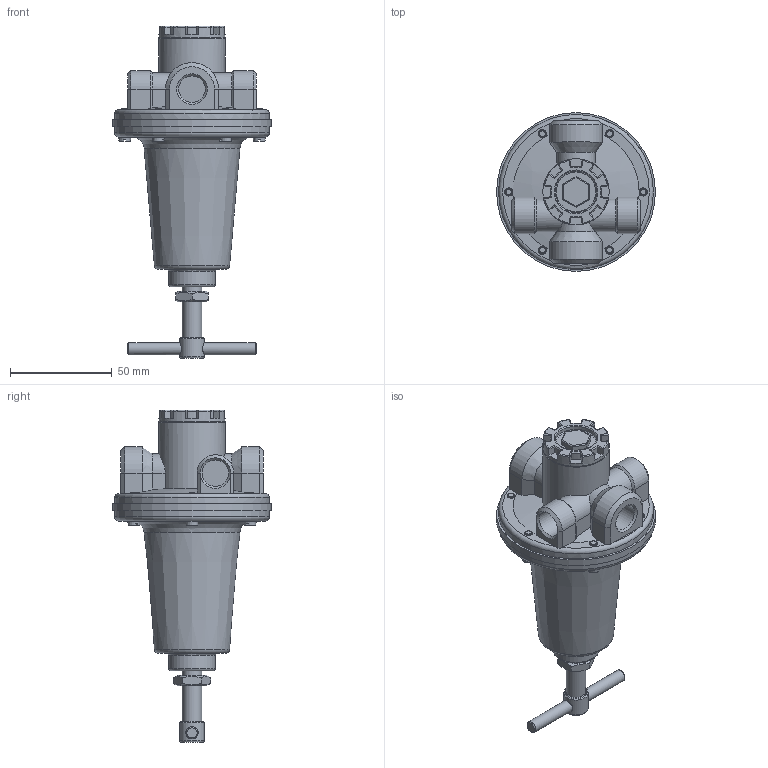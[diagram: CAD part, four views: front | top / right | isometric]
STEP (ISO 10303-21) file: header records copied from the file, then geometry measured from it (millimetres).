
FILE_DESCRIPTION((''),'2;1');
FILE_NAME('U:\AirCom-Produktdokumentation\Druckregler\R119\Zeichnungen\CAD-Aircom\3D\B-R119-02x.stp','2012-02-14T07:44:41',('frank schroers'),(''),'Autodesk Inventor 2008','Autodesk Inventor 2008','');
FILE_SCHEMA(('AUTOMOTIVE_DESIGN { 1 0 10303 214 1 1 1 1 }'));
Length unit declared in the file: millimetre
Products named in the file (4): B-R119-02x; DIN EN ISO 1207 M3,5 x 14; DIN EN 24035 M10
Assembly tree (8 placements, depth 2):
  B-R119-02x
    B-R119-02x
    DIN EN ISO 1207 M3,5 x 14  x6
    DIN EN 24035 M10
Bounding box: 78 x 78 x 163 mm (x, y, z)
Volume: 220368.6 mm3; surface area: 34713 mm2
Topology: 8 solids, 8 shells, 290 faces, 675 edges, 412 vertices
Faces by surface type: plane 136, cylinder 71, cone 40, torus 34, bspline 9
Full cylindrical faces by diameter (mm): 3.132 x6, 3.5 x6, 4 x6, 6 x2, 9.5 x1, 12 x1, 13 x4, 20.5 x1, 23 x1, 32.5 x2, 76 x2, 78 x1
Entity records: 6973 total; most frequent: CARTESIAN_POINT 2140, DIRECTION 972, ORIENTED_EDGE 914, EDGE_CURVE 457, AXIS2_PLACEMENT_3D 388, VERTEX_POINT 301, EDGE_LOOP 292, FACE_OUTER_BOUND 220
